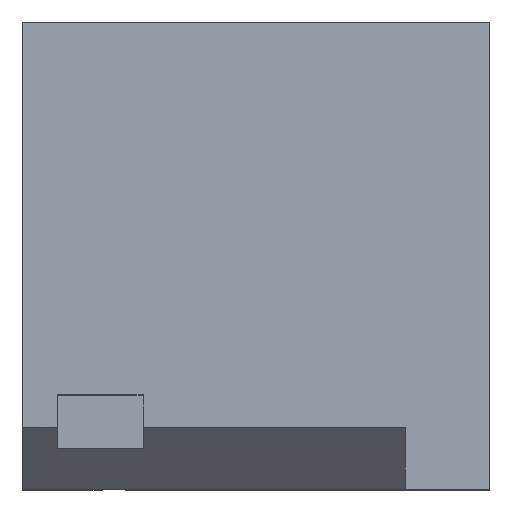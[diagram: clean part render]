
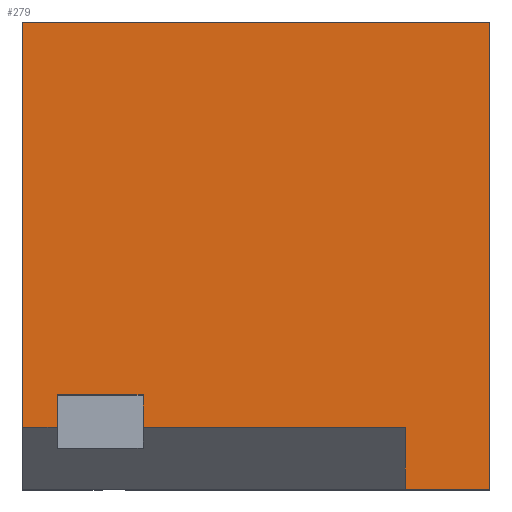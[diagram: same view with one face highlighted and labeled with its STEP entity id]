
A CAD part, top view. The second image highlights one B-rep face of the part: STEP entity #279.
In plain terms, the highlighted planar face has unit normal (0, 0, 1).
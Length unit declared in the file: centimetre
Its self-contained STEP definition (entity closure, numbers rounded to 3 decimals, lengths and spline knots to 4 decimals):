
#15 = EDGE_CURVE ( 'NONE', #866, #754, #1188, .T. ) ;
#29 = EDGE_CURVE ( 'NONE', #1450, #874, #962, .T. ) ;
#33 = DIRECTION ( 'NONE',  ( 1., 0., 0. ) ) ;
#48 = DIRECTION ( 'NONE',  ( 0., -1., 0. ) ) ;
#54 = LINE ( 'NONE', #514, #585 ) ;
#58 = CARTESIAN_POINT ( 'NONE',  ( 258.3066, 202.2119, 1000. ) ) ;
#67 = DIRECTION ( 'NONE',  ( 0., 1., 0. ) ) ;
#84 = CARTESIAN_POINT ( 'NONE',  ( 0., 1000., 1000. ) ) ;
#88 = DIRECTION ( 'NONE',  ( 0., 1., 0. ) ) ;
#109 = ORIENTED_EDGE ( 'NONE', *, *, #704, .F. ) ;
#113 = CARTESIAN_POINT ( 'NONE',  ( 819.6555, 0., 1000. ) ) ;
#125 = VECTOR ( 'NONE', #811, 100. ) ;
#138 = LINE ( 'NONE', #1184, #227 ) ;
#139 = VECTOR ( 'NONE', #822, 100. ) ;
#154 = EDGE_CURVE ( 'NONE', #682, #866, #691, .T. ) ;
#159 = CARTESIAN_POINT ( 'NONE',  ( 74.7263, 87.8869, 1000. ) ) ;
#167 = EDGE_CURVE ( 'NONE', #874, #294, #569, .T. ) ;
#203 = VERTEX_POINT ( 'NONE', #433 ) ;
#213 = ORIENTED_EDGE ( 'NONE', *, *, #791, .T. ) ;
#227 = VECTOR ( 'NONE', #615, 100. ) ;
#248 = CARTESIAN_POINT ( 'NONE',  ( 819.6555, 132.5703, 1000. ) ) ;
#279 = ADVANCED_FACE ( 'NONE', ( #580 ), #1033, .T. ) ;
#285 = ORIENTED_EDGE ( 'NONE', *, *, #530, .F. ) ;
#290 = CARTESIAN_POINT ( 'NONE',  ( 74.7263, 132.5703, 1000. ) ) ;
#294 = VERTEX_POINT ( 'NONE', #828 ) ;
#312 = CARTESIAN_POINT ( 'NONE',  ( 74.7263, 202.2119, 1000. ) ) ;
#375 = LINE ( 'NONE', #481, #139 ) ;
#395 = DIRECTION ( 'NONE',  ( 0., -1., 0. ) ) ;
#397 = ORIENTED_EDGE ( 'NONE', *, *, #154, .F. ) ;
#404 = DIRECTION ( 'NONE',  ( 1., 0., 0. ) ) ;
#421 = VECTOR ( 'NONE', #88, 100. ) ;
#433 = CARTESIAN_POINT ( 'NONE',  ( 258.3066, 132.5703, 1000. ) ) ;
#467 = CARTESIAN_POINT ( 'NONE',  ( 1000., 1000., 1000. ) ) ;
#469 = EDGE_CURVE ( 'NONE', #654, #1455, #138, .T. ) ;
#472 = DIRECTION ( 'NONE',  ( 0., 0., 1. ) ) ;
#481 = CARTESIAN_POINT ( 'NONE',  ( 819.6555, 132.5703, 1000. ) ) ;
#504 = LINE ( 'NONE', #84, #629 ) ;
#508 = EDGE_CURVE ( 'NONE', #654, #1450, #54, .T. ) ;
#514 = CARTESIAN_POINT ( 'NONE',  ( 0., 0., 1000. ) ) ;
#530 = EDGE_CURVE ( 'NONE', #1455, #203, #1025, .T. ) ;
#533 = LINE ( 'NONE', #970, #956 ) ;
#534 = DIRECTION ( 'NONE',  ( -1., 0., 0. ) ) ;
#541 = EDGE_LOOP ( 'NONE', ( #1193, #1089, #397, #109, #285, #634, #631, #723, #1427, #213 ) ) ;
#569 = LINE ( 'NONE', #804, #1176 ) ;
#580 = FACE_OUTER_BOUND ( 'NONE', #541, .T. ) ;
#585 = VECTOR ( 'NONE', #404, 100. ) ;
#615 = DIRECTION ( 'NONE',  ( 0., 1., 0. ) ) ;
#629 = VECTOR ( 'NONE', #395, 100. ) ;
#631 = ORIENTED_EDGE ( 'NONE', *, *, #508, .T. ) ;
#634 = ORIENTED_EDGE ( 'NONE', *, *, #469, .F. ) ;
#654 = VERTEX_POINT ( 'NONE', #113 ) ;
#682 = VERTEX_POINT ( 'NONE', #58 ) ;
#691 = LINE ( 'NONE', #312, #1327 ) ;
#704 = EDGE_CURVE ( 'NONE', #203, #682, #533, .T. ) ;
#723 = ORIENTED_EDGE ( 'NONE', *, *, #29, .T. ) ;
#743 = VERTEX_POINT ( 'NONE', #1451 ) ;
#754 = VERTEX_POINT ( 'NONE', #290 ) ;
#756 = CARTESIAN_POINT ( 'NONE',  ( 819.6555, 132.5703, 1000. ) ) ;
#791 = EDGE_CURVE ( 'NONE', #294, #743, #504, .T. ) ;
#804 = CARTESIAN_POINT ( 'NONE',  ( 0., 1000., 1000. ) ) ;
#811 = DIRECTION ( 'NONE',  ( -1., 0., 0. ) ) ;
#822 = DIRECTION ( 'NONE',  ( -1., 0., 0. ) ) ;
#828 = CARTESIAN_POINT ( 'NONE',  ( 0., 1000., 1000. ) ) ;
#855 = CARTESIAN_POINT ( 'NONE',  ( 1000., 0., 1000. ) ) ;
#866 = VERTEX_POINT ( 'NONE', #1473 ) ;
#874 = VERTEX_POINT ( 'NONE', #467 ) ;
#902 = VECTOR ( 'NONE', #48, 100. ) ;
#924 = CARTESIAN_POINT ( 'NONE',  ( 0., 0., 1000. ) ) ;
#956 = VECTOR ( 'NONE', #67, 100. ) ;
#962 = LINE ( 'NONE', #1342, #421 ) ;
#970 = CARTESIAN_POINT ( 'NONE',  ( 258.3066, 87.8869, 1000. ) ) ;
#1025 = LINE ( 'NONE', #248, #125 ) ;
#1033 = PLANE ( 'NONE',  #1235 ) ;
#1072 = EDGE_CURVE ( 'NONE', #754, #743, #375, .T. ) ;
#1089 = ORIENTED_EDGE ( 'NONE', *, *, #15, .F. ) ;
#1176 = VECTOR ( 'NONE', #1262, 100. ) ;
#1184 = CARTESIAN_POINT ( 'NONE',  ( 819.6555, 0., 1000. ) ) ;
#1188 = LINE ( 'NONE', #159, #902 ) ;
#1193 = ORIENTED_EDGE ( 'NONE', *, *, #1072, .F. ) ;
#1235 = AXIS2_PLACEMENT_3D ( 'NONE', #924, #472, #33 ) ;
#1262 = DIRECTION ( 'NONE',  ( -1., 0., 0. ) ) ;
#1327 = VECTOR ( 'NONE', #534, 100. ) ;
#1342 = CARTESIAN_POINT ( 'NONE',  ( 1000., 1000., 1000. ) ) ;
#1427 = ORIENTED_EDGE ( 'NONE', *, *, #167, .T. ) ;
#1450 = VERTEX_POINT ( 'NONE', #855 ) ;
#1451 = CARTESIAN_POINT ( 'NONE',  ( 0., 132.5703, 1000. ) ) ;
#1455 = VERTEX_POINT ( 'NONE', #756 ) ;
#1473 = CARTESIAN_POINT ( 'NONE',  ( 74.7263, 202.2119, 1000. ) ) ;
